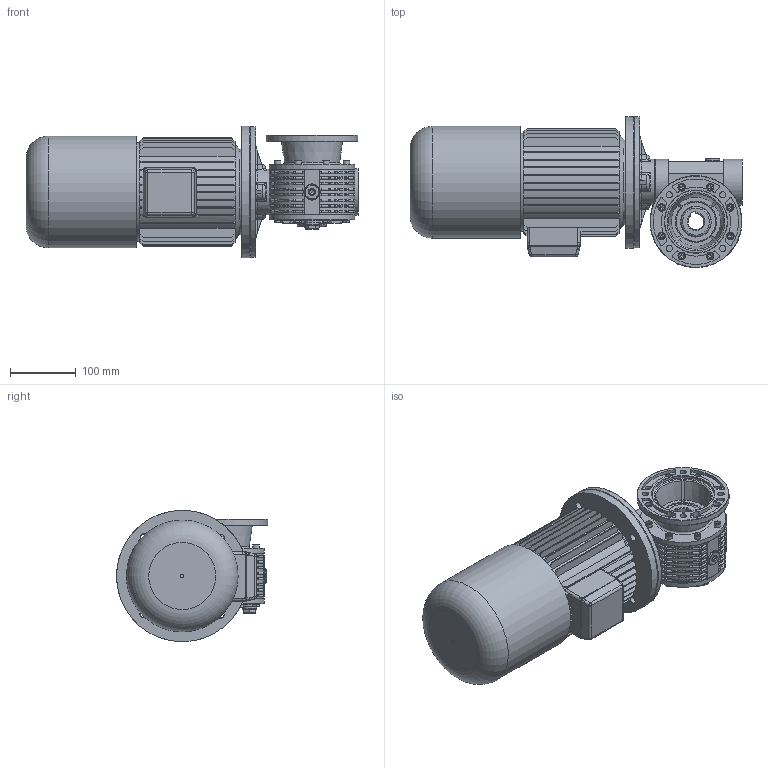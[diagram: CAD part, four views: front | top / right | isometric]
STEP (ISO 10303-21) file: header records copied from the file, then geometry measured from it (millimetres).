
FILE_DESCRIPTION((''),'2;1');
FILE_NAME('Y:\Archivi Inventor\Prog_01\GRAND_20\figuirini\mrv20_sito\80_autofrenante\MRV---20---F1-----80----B5-F3D.stp','2013-02-08T16:26:55',('tech3'),(''),'Autodesk Inventor 2013','Autodesk Inventor 2013','');
FILE_SCHEMA(('AUTOMOTIVE_DESIGN { 1 0 10303 214 1 1 1 1 }'));
Length unit declared in the file: millimetre
Products named in the file (19): fig_mrv20_80_b5; mrv20; 0102001; Coperchietto_47x7; Guarnizione 3_8 GAS; Tappo 3_8 GAS_esagn_incsst; mozzo_corona_fig; PARAOLIO 45x60x8; ISO 4017 M6 x 16; 0102029; 0102002-A1_fig; 0102003; Tappo3_8 GAS; ISO 4762 M6 x 16; DIN EN 24017 M6 x 12; 0102028; DIN EN ISO 4762 M6 x 20; 0102006; motori B5 brake 80
Assembly tree (40 placements, depth 3):
  fig_mrv20_80_b5
    mrv20
      0102001
      Coperchietto_47x7
      Guarnizione 3_8 GAS  x3
      Tappo 3_8 GAS_esagn_incsst  x2
      mozzo_corona_fig
      PARAOLIO 45x60x8  x2
      ISO 4017 M6 x 16  x8
      0102029  x2
      0102002-A1_fig
      0102003
      Tappo3_8 GAS
      ISO 4762 M6 x 16  x8
      DIN EN 24017 M6 x 12
      0102028
      DIN EN ISO 4762 M6 x 20  x4
    0102006
    motori B5 brake 80
Bounding box: 505 x 229.73 x 199.99 mm (x, y, z)
Volume: 5559073.3 mm3; surface area: 880524.6 mm2
Topology: 40 solids, 52 shells, 2062 faces, 4999 edges, 3033 vertices
Faces by surface type: plane 902, cylinder 648, torus 192, bspline 176, cone 140, sphere 4
Full cylindrical faces by diameter (mm): 2 x2, 4.917 x20, 5 x1, 6 x21, 6.5 x28, 6.75 x4, 7 x8, 8 x2, 8.88 x9, 9.5 x4, 10 x12, 11 x12, 11.5 x12, 13.046 x1, 14.95 x3, 16.3 x3, 16.5 x2, 19 x1, 22 x6, 25 x2, 40 x1, 41.36 x1, 44.4 x2, 45 x4, 47 x4, 49.5 x1, 50.605 x2, 55.5 x2, 60 x5, 69.5 x1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
Entity records: 59398 total; most frequent: CARTESIAN_POINT 18908, DIRECTION 8499, ORIENTED_EDGE 7896, EDGE_CURVE 3948, AXIS2_PLACEMENT_3D 3421, VERTEX_POINT 2546, EDGE_LOOP 2118, CIRCLE 1774
